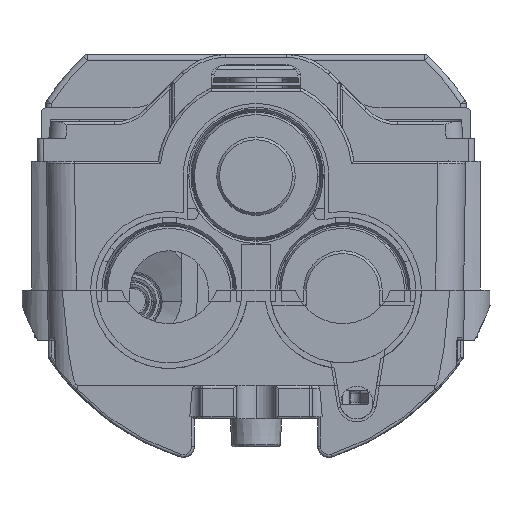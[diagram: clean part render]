
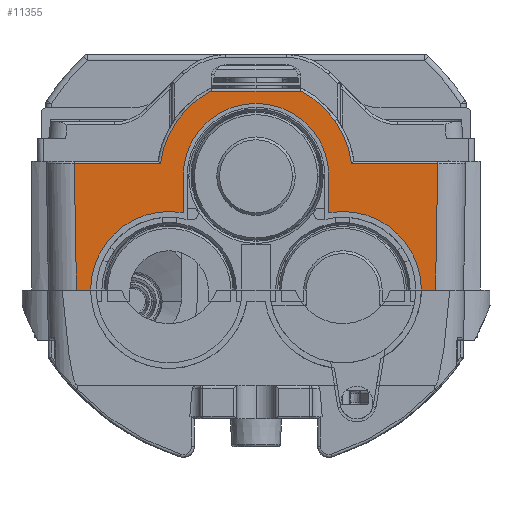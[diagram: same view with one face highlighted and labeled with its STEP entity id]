
A CAD part, left-side view. The second image highlights one B-rep face of the part: STEP entity #11355.
In plain terms, the highlighted planar face has unit normal (-1, 0, 0).
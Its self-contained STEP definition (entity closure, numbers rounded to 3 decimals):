
#35 = VECTOR ( 'NONE', #1996, 1000. ) ;
#314 = CARTESIAN_POINT ( 'NONE',  ( -234.5, 13., 54.3 ) ) ;
#527 = VERTEX_POINT ( 'NONE', #31352 ) ;
#1048 = DIRECTION ( 'NONE',  ( 0., 1., 0. ) ) ;
#1996 = DIRECTION ( 'NONE',  ( 0., 0., 1. ) ) ;
#2165 = PLANE ( 'NONE',  #8828 ) ;
#2528 = CIRCLE ( 'NONE', #17309, 17.2 ) ;
#3343 = CARTESIAN_POINT ( 'NONE',  ( -234.5, -32.028, 34. ) ) ;
#3828 = EDGE_CURVE ( 'NONE', #3841, #43235, #27443, .T. ) ;
#3841 = VERTEX_POINT ( 'NONE', #7057 ) ;
#4059 = VERTEX_POINT ( 'NONE', #49959 ) ;
#5162 = CARTESIAN_POINT ( 'NONE',  ( -234.5, 0., 54.3 ) ) ;
#5513 = DIRECTION ( 'NONE',  ( 0., 1., 0. ) ) ;
#6246 = CARTESIAN_POINT ( 'NONE',  ( -234.5, 37.029, 76. ) ) ;
#6347 = LINE ( 'NONE', #18005, #47305 ) ;
#6375 = CARTESIAN_POINT ( 'NONE',  ( -234.5, -17.059, 56.5 ) ) ;
#6376 = LINE ( 'NONE', #314, #48610 ) ;
#6530 = ORIENTED_EDGE ( 'NONE', *, *, #3828, .F. ) ;
#6873 = CARTESIAN_POINT ( 'NONE',  ( -234.5, -15.5, 34. ) ) ;
#7057 = CARTESIAN_POINT ( 'NONE',  ( -234.5, -29.5, 34. ) ) ;
#7096 = ORIENTED_EDGE ( 'NONE', *, *, #46145, .T. ) ;
#8089 = VERTEX_POINT ( 'NONE', #3343 ) ;
#8306 = VERTEX_POINT ( 'NONE', #20762 ) ;
#8338 = AXIS2_PLACEMENT_3D ( 'NONE', #13382, #41986, #17521 ) ;
#8828 = AXIS2_PLACEMENT_3D ( 'NONE', #6246, #10402, #39038 ) ;
#9299 = DIRECTION ( 'NONE',  ( 0., 0., -1. ) ) ;
#10402 = DIRECTION ( 'NONE',  ( 1., 0., 0. ) ) ;
#11019 = DIRECTION ( 'NONE',  ( 0., -1., 0. ) ) ;
#11307 = EDGE_CURVE ( 'NONE', #43235, #8306, #32712, .T. ) ;
#11355 = ADVANCED_FACE ( 'NONE', ( #42319 ), #2165, .F. ) ;
#11970 = DIRECTION ( 'NONE',  ( 0., -0.017, -1. ) ) ;
#13382 = CARTESIAN_POINT ( 'NONE',  ( -234.5, 15.5, 34. ) ) ;
#13604 = CARTESIAN_POINT ( 'NONE',  ( -234.5, 37.029, 69.5 ) ) ;
#13662 = VERTEX_POINT ( 'NONE', #50123 ) ;
#14031 = DIRECTION ( 'NONE',  ( 0., -1., 0. ) ) ;
#16191 = ORIENTED_EDGE ( 'NONE', *, *, #18383, .T. ) ;
#16274 = CARTESIAN_POINT ( 'NONE',  ( -234.5, 29.5, 34. ) ) ;
#16382 = VERTEX_POINT ( 'NONE', #48375 ) ;
#17309 = AXIS2_PLACEMENT_3D ( 'NONE', #20373, #48952, #24453 ) ;
#17521 = DIRECTION ( 'NONE',  ( 0., -1., 0. ) ) ;
#18005 = CARTESIAN_POINT ( 'NONE',  ( -234.5, 37.029, 34. ) ) ;
#18383 = EDGE_CURVE ( 'NONE', #30901, #527, #2528, .T. ) ;
#18565 = EDGE_CURVE ( 'NONE', #13662, #32116, #49204, .T. ) ;
#19209 = ORIENTED_EDGE ( 'NONE', *, *, #43610, .T. ) ;
#20373 = CARTESIAN_POINT ( 'NONE',  ( -234.5, 0., 54.3 ) ) ;
#20712 = CARTESIAN_POINT ( 'NONE',  ( -234.5, 0., 54.3 ) ) ;
#20762 = CARTESIAN_POINT ( 'NONE',  ( -234.5, -13., 54.3 ) ) ;
#21319 = CIRCLE ( 'NONE', #40142, 17.2 ) ;
#21684 = ORIENTED_EDGE ( 'NONE', *, *, #11307, .F. ) ;
#23057 = VECTOR ( 'NONE', #1048, 1000. ) ;
#23365 = CARTESIAN_POINT ( 'NONE',  ( -234.5, 8.05, 69.5 ) ) ;
#23616 = ORIENTED_EDGE ( 'NONE', *, *, #51118, .F. ) ;
#24302 = VECTOR ( 'NONE', #5513, 1000. ) ;
#24453 = DIRECTION ( 'NONE',  ( 0., 0., -1. ) ) ;
#24774 = DIRECTION ( 'NONE',  ( 0., -1., 0. ) ) ;
#24981 = DIRECTION ( 'NONE',  ( 0., -1., 0. ) ) ;
#25030 = ORIENTED_EDGE ( 'NONE', *, *, #30943, .F. ) ;
#25521 = EDGE_CURVE ( 'NONE', #16382, #40276, #35359, .T. ) ;
#25603 = EDGE_CURVE ( 'NONE', #3841, #8089, #42383, .T. ) ;
#26216 = ORIENTED_EDGE ( 'NONE', *, *, #18565, .F. ) ;
#26719 = ORIENTED_EDGE ( 'NONE', *, *, #47165, .T. ) ;
#26914 = CARTESIAN_POINT ( 'NONE',  ( -234.5, -32.74, 74.782 ) ) ;
#27443 = CIRCLE ( 'NONE', #33669, 14. ) ;
#28882 = DIRECTION ( 'NONE',  ( 0., 0., -1. ) ) ;
#30324 = ORIENTED_EDGE ( 'NONE', *, *, #35895, .T. ) ;
#30901 = VERTEX_POINT ( 'NONE', #23365 ) ;
#30943 = EDGE_CURVE ( 'NONE', #8306, #36586, #33567, .T. ) ;
#31071 = DIRECTION ( 'NONE',  ( 0., -0.017, 1. ) ) ;
#31352 = CARTESIAN_POINT ( 'NONE',  ( -234.5, 17.059, 56.5 ) ) ;
#31483 = VECTOR ( 'NONE', #24981, 1000. ) ;
#32116 = VERTEX_POINT ( 'NONE', #16274 ) ;
#32549 = CARTESIAN_POINT ( 'NONE',  ( -234.5, -8.05, 69.5 ) ) ;
#32712 = LINE ( 'NONE', #42599, #35 ) ;
#33060 = CARTESIAN_POINT ( 'NONE',  ( -234.5, 37.029, 34. ) ) ;
#33567 = CIRCLE ( 'NONE', #47179, 13. ) ;
#33669 = AXIS2_PLACEMENT_3D ( 'NONE', #6873, #35526, #11019 ) ;
#33808 = DIRECTION ( 'NONE',  ( -1., 0., 0. ) ) ;
#34389 = CARTESIAN_POINT ( 'NONE',  ( -234.5, -13., 47.775 ) ) ;
#34519 = EDGE_CURVE ( 'NONE', #4059, #38615, #35210, .T. ) ;
#34539 = ORIENTED_EDGE ( 'NONE', *, *, #51224, .T. ) ;
#35210 = LINE ( 'NONE', #38288, #24302 ) ;
#35359 = LINE ( 'NONE', #40587, #46199 ) ;
#35526 = DIRECTION ( 'NONE',  ( -1., 0., 0. ) ) ;
#35895 = EDGE_CURVE ( 'NONE', #40276, #32116, #6347, .T. ) ;
#36217 = ORIENTED_EDGE ( 'NONE', *, *, #25521, .T. ) ;
#36586 = VERTEX_POINT ( 'NONE', #42366 ) ;
#37417 = EDGE_LOOP ( 'NONE', ( #16191, #34539, #36217, #30324, #26216, #23616, #25030, #21684, #6530, #49619, #26719, #46890, #19209, #7096 ) ) ;
#38288 = CARTESIAN_POINT ( 'NONE',  ( -234.5, 37.029, 56.5 ) ) ;
#38615 = VERTEX_POINT ( 'NONE', #6375 ) ;
#39038 = DIRECTION ( 'NONE',  ( 0., 0., -1. ) ) ;
#39643 = LINE ( 'NONE', #13604, #49183 ) ;
#40142 = AXIS2_PLACEMENT_3D ( 'NONE', #5162, #33808, #9299 ) ;
#40276 = VERTEX_POINT ( 'NONE', #46486 ) ;
#40587 = CARTESIAN_POINT ( 'NONE',  ( -234.5, 32.762, 76.074 ) ) ;
#41986 = DIRECTION ( 'NONE',  ( -1., 0., 0. ) ) ;
#42031 = CARTESIAN_POINT ( 'NONE',  ( -234.5, 37.029, 56.5 ) ) ;
#42096 = VECTOR ( 'NONE', #31071, 1000. ) ;
#42319 = FACE_OUTER_BOUND ( 'NONE', #37417, .T. ) ;
#42366 = CARTESIAN_POINT ( 'NONE',  ( -234.5, 13., 54.3 ) ) ;
#42383 = LINE ( 'NONE', #33060, #31483 ) ;
#42599 = CARTESIAN_POINT ( 'NONE',  ( -234.5, -13., 54.3 ) ) ;
#43235 = VERTEX_POINT ( 'NONE', #34389 ) ;
#43469 = VERTEX_POINT ( 'NONE', #32549 ) ;
#43610 = EDGE_CURVE ( 'NONE', #38615, #43469, #21319, .T. ) ;
#44748 = LINE ( 'NONE', #42031, #23057 ) ;
#45898 = LINE ( 'NONE', #26914, #42096 ) ;
#46145 = EDGE_CURVE ( 'NONE', #43469, #30901, #39643, .T. ) ;
#46199 = VECTOR ( 'NONE', #11970, 1000. ) ;
#46291 = DIRECTION ( 'NONE',  ( 0., 1., 0. ) ) ;
#46486 = CARTESIAN_POINT ( 'NONE',  ( -234.5, 32.028, 34. ) ) ;
#46890 = ORIENTED_EDGE ( 'NONE', *, *, #34519, .T. ) ;
#47165 = EDGE_CURVE ( 'NONE', #8089, #4059, #45898, .T. ) ;
#47179 = AXIS2_PLACEMENT_3D ( 'NONE', #20712, #49304, #24774 ) ;
#47305 = VECTOR ( 'NONE', #14031, 1000. ) ;
#48375 = CARTESIAN_POINT ( 'NONE',  ( -234.5, 32.421, 56.5 ) ) ;
#48610 = VECTOR ( 'NONE', #28882, 1000. ) ;
#48952 = DIRECTION ( 'NONE',  ( -1., 0., 0. ) ) ;
#49183 = VECTOR ( 'NONE', #46291, 1000. ) ;
#49204 = CIRCLE ( 'NONE', #8338, 14. ) ;
#49304 = DIRECTION ( 'NONE',  ( -1., 0., 0. ) ) ;
#49619 = ORIENTED_EDGE ( 'NONE', *, *, #25603, .T. ) ;
#49959 = CARTESIAN_POINT ( 'NONE',  ( -234.5, -32.421, 56.5 ) ) ;
#50123 = CARTESIAN_POINT ( 'NONE',  ( -234.5, 13., 47.775 ) ) ;
#51118 = EDGE_CURVE ( 'NONE', #36586, #13662, #6376, .T. ) ;
#51224 = EDGE_CURVE ( 'NONE', #527, #16382, #44748, .T. ) ;
